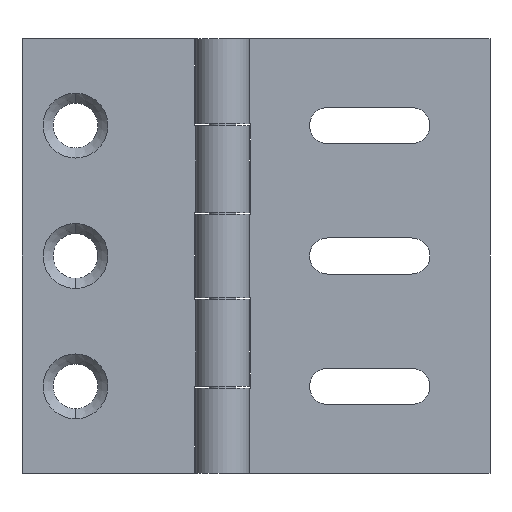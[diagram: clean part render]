
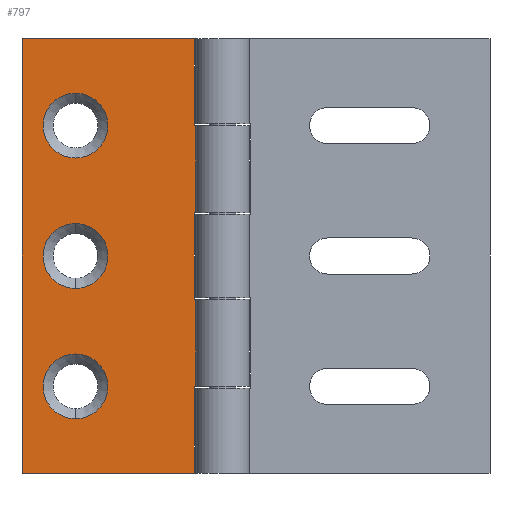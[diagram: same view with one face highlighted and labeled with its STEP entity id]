
A CAD part, front view. The second image highlights one B-rep face of the part: STEP entity #797.
In plain terms, the highlighted planar face has unit normal (0, -1, 0).
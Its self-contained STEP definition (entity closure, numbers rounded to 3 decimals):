
#459=CARTESIAN_POINT('',(-9.0,2.,14.65));
#460=VERTEX_POINT('',#459);
#474=CARTESIAN_POINT('',(-9.0,2.,24.35));
#475=VERTEX_POINT('',#474);
#482=CARTESIAN_POINT('',(-9.0,2.,19.5));
#483=DIRECTION('',(0.0,-1.0,0.0));
#484=DIRECTION('',(0.0,0.0,-1.0));
#485=AXIS2_PLACEMENT_3D('',#482,#483,#484);
#486=CIRCLE('',#485,4.85);
#487=EDGE_CURVE('',#475,#460,#486,.T.);
#539=CARTESIAN_POINT('',(-9.0,2.,-4.85));
#540=VERTEX_POINT('',#539);
#554=CARTESIAN_POINT('',(-9.0,2.,4.85));
#555=VERTEX_POINT('',#554);
#562=CARTESIAN_POINT('',(-9.0,2.,0.));
#563=DIRECTION('',(0.0,-1.0,0.0));
#564=DIRECTION('',(0.0,0.0,-1.0));
#565=AXIS2_PLACEMENT_3D('',#562,#563,#564);
#566=CIRCLE('',#565,4.85);
#567=EDGE_CURVE('',#555,#540,#566,.T.);
#619=CARTESIAN_POINT('',(-9.0,2.,-24.35));
#620=VERTEX_POINT('',#619);
#634=CARTESIAN_POINT('',(-9.0,2.,-14.65));
#635=VERTEX_POINT('',#634);
#642=CARTESIAN_POINT('',(-9.0,2.,-19.5));
#643=DIRECTION('',(0.0,-1.0,0.0));
#644=DIRECTION('',(0.0,0.0,-1.0));
#645=AXIS2_PLACEMENT_3D('',#642,#643,#644);
#646=CIRCLE('',#645,4.85);
#647=EDGE_CURVE('',#635,#620,#646,.T.);
#658=CARTESIAN_POINT('',(-9.0,2.,-19.5));
#659=DIRECTION('',(0.0,-1.0,0.0));
#660=DIRECTION('',(0.0,0.0,-1.0));
#661=AXIS2_PLACEMENT_3D('',#658,#659,#660);
#662=CIRCLE('',#661,4.85);
#663=EDGE_CURVE('',#620,#635,#662,.T.);
#670=CARTESIAN_POINT('',(13.0,2.,-32.5));
#671=DIRECTION('',(0.0,-1.0,0.0));
#672=DIRECTION('',(0.0,0.0,1.0));
#673=AXIS2_PLACEMENT_3D('',#670,#671,#672);
#674=PLANE('',#673);
#675=CARTESIAN_POINT('',(8.8,2.,-32.5));
#676=VERTEX_POINT('',#675);
#677=CARTESIAN_POINT('',(-17.0,2.,-32.5));
#678=VERTEX_POINT('',#677);
#679=CARTESIAN_POINT('',(8.8,2.,-32.5));
#680=DIRECTION('',(-1.0,0.0,0.0));
#681=VECTOR('',#680,25.8);
#682=LINE('',#679,#681);
#683=EDGE_CURVE('',#676,#678,#682,.T.);
#684=ORIENTED_EDGE('',*,*,#683,.F.);
#685=CARTESIAN_POINT('',(8.8,2.,-19.5));
#686=VERTEX_POINT('',#685);
#687=CARTESIAN_POINT('',(8.8,2.,-32.5));
#688=DIRECTION('',(0.0,0.0,1.0));
#689=VECTOR('',#688,13.0);
#690=LINE('',#687,#689);
#691=EDGE_CURVE('',#676,#686,#690,.T.);
#692=ORIENTED_EDGE('',*,*,#691,.T.);
#693=CARTESIAN_POINT('',(13.0,2.,-19.5));
#694=VERTEX_POINT('',#693);
#695=CARTESIAN_POINT('',(8.8,2.,-19.5));
#696=DIRECTION('',(1.0,0.0,0.0));
#697=VECTOR('',#696,4.2);
#698=LINE('',#695,#697);
#699=EDGE_CURVE('',#686,#694,#698,.T.);
#700=ORIENTED_EDGE('',*,*,#699,.T.);
#701=CARTESIAN_POINT('',(13.0,2.0,-6.5));
#702=VERTEX_POINT('',#701);
#703=CARTESIAN_POINT('',(13.0,2.,-19.5));
#704=DIRECTION('',(0.0,0.0,1.0));
#705=VECTOR('',#704,13.0);
#706=LINE('',#703,#705);
#707=EDGE_CURVE('',#694,#702,#706,.T.);
#708=ORIENTED_EDGE('',*,*,#707,.T.);
#709=CARTESIAN_POINT('',(8.8,2.0,-6.5));
#710=VERTEX_POINT('',#709);
#711=CARTESIAN_POINT('',(13.0,2.0,-6.5));
#712=DIRECTION('',(-1.0,0.0,0.0));
#713=VECTOR('',#712,4.2);
#714=LINE('',#711,#713);
#715=EDGE_CURVE('',#702,#710,#714,.T.);
#716=ORIENTED_EDGE('',*,*,#715,.T.);
#717=CARTESIAN_POINT('',(8.8,2.,6.5));
#718=VERTEX_POINT('',#717);
#719=CARTESIAN_POINT('',(8.8,2.0,-6.5));
#720=DIRECTION('',(0.0,0.0,1.0));
#721=VECTOR('',#720,13.0);
#722=LINE('',#719,#721);
#723=EDGE_CURVE('',#710,#718,#722,.T.);
#724=ORIENTED_EDGE('',*,*,#723,.T.);
#725=CARTESIAN_POINT('',(13.0,2.,6.5));
#726=VERTEX_POINT('',#725);
#727=CARTESIAN_POINT('',(8.8,2.,6.5));
#728=DIRECTION('',(1.0,0.0,0.0));
#729=VECTOR('',#728,4.2);
#730=LINE('',#727,#729);
#731=EDGE_CURVE('',#718,#726,#730,.T.);
#732=ORIENTED_EDGE('',*,*,#731,.T.);
#733=CARTESIAN_POINT('',(13.0,2.,19.5));
#734=VERTEX_POINT('',#733);
#735=CARTESIAN_POINT('',(13.0,2.,6.5));
#736=DIRECTION('',(0.0,0.0,1.0));
#737=VECTOR('',#736,13.0);
#738=LINE('',#735,#737);
#739=EDGE_CURVE('',#726,#734,#738,.T.);
#740=ORIENTED_EDGE('',*,*,#739,.T.);
#741=CARTESIAN_POINT('',(8.8,2.,19.5));
#742=VERTEX_POINT('',#741);
#743=CARTESIAN_POINT('',(13.0,2.,19.5));
#744=DIRECTION('',(-1.0,0.0,0.0));
#745=VECTOR('',#744,4.2);
#746=LINE('',#743,#745);
#747=EDGE_CURVE('',#734,#742,#746,.T.);
#748=ORIENTED_EDGE('',*,*,#747,.T.);
#749=CARTESIAN_POINT('',(8.8,2.,32.5));
#750=VERTEX_POINT('',#749);
#751=CARTESIAN_POINT('',(8.8,2.,19.5));
#752=DIRECTION('',(0.0,0.0,1.0));
#753=VECTOR('',#752,13.0);
#754=LINE('',#751,#753);
#755=EDGE_CURVE('',#742,#750,#754,.T.);
#756=ORIENTED_EDGE('',*,*,#755,.T.);
#757=CARTESIAN_POINT('',(-17.0,2.,32.5));
#758=VERTEX_POINT('',#757);
#759=CARTESIAN_POINT('',(8.8,2.,32.5));
#760=DIRECTION('',(-1.0,0.0,0.0));
#761=VECTOR('',#760,25.8);
#762=LINE('',#759,#761);
#763=EDGE_CURVE('',#750,#758,#762,.T.);
#764=ORIENTED_EDGE('',*,*,#763,.T.);
#765=CARTESIAN_POINT('',(-17.0,2.,-32.5));
#766=DIRECTION('',(0.0,0.0,1.0));
#767=VECTOR('',#766,65.0);
#768=LINE('',#765,#767);
#769=EDGE_CURVE('',#678,#758,#768,.T.);
#770=ORIENTED_EDGE('',*,*,#769,.F.);
#771=EDGE_LOOP('',(#684,#692,#700,#708,#716,#724,#732,#740,#748,#756,#764,#770));
#772=FACE_OUTER_BOUND('',#771,.T.);
#773=ORIENTED_EDGE('',*,*,#567,.F.);
#774=CARTESIAN_POINT('',(-9.0,2.,0.));
#775=DIRECTION('',(0.0,-1.0,0.0));
#776=DIRECTION('',(0.0,0.0,-1.0));
#777=AXIS2_PLACEMENT_3D('',#774,#775,#776);
#778=CIRCLE('',#777,4.85);
#779=EDGE_CURVE('',#540,#555,#778,.T.);
#780=ORIENTED_EDGE('',*,*,#779,.F.);
#781=EDGE_LOOP('',(#773,#780));
#782=FACE_BOUND('',#781,.T.);
#783=ORIENTED_EDGE('',*,*,#487,.F.);
#784=CARTESIAN_POINT('',(-9.0,2.,19.5));
#785=DIRECTION('',(0.0,-1.0,0.0));
#786=DIRECTION('',(0.0,0.0,-1.0));
#787=AXIS2_PLACEMENT_3D('',#784,#785,#786);
#788=CIRCLE('',#787,4.85);
#789=EDGE_CURVE('',#460,#475,#788,.T.);
#790=ORIENTED_EDGE('',*,*,#789,.F.);
#791=EDGE_LOOP('',(#783,#790));
#792=FACE_BOUND('',#791,.T.);
#793=ORIENTED_EDGE('',*,*,#647,.F.);
#794=ORIENTED_EDGE('',*,*,#663,.F.);
#795=EDGE_LOOP('',(#793,#794));
#796=FACE_BOUND('',#795,.T.);
#797=ADVANCED_FACE('',(#772,#782,#792,#796),#674,.T.);
